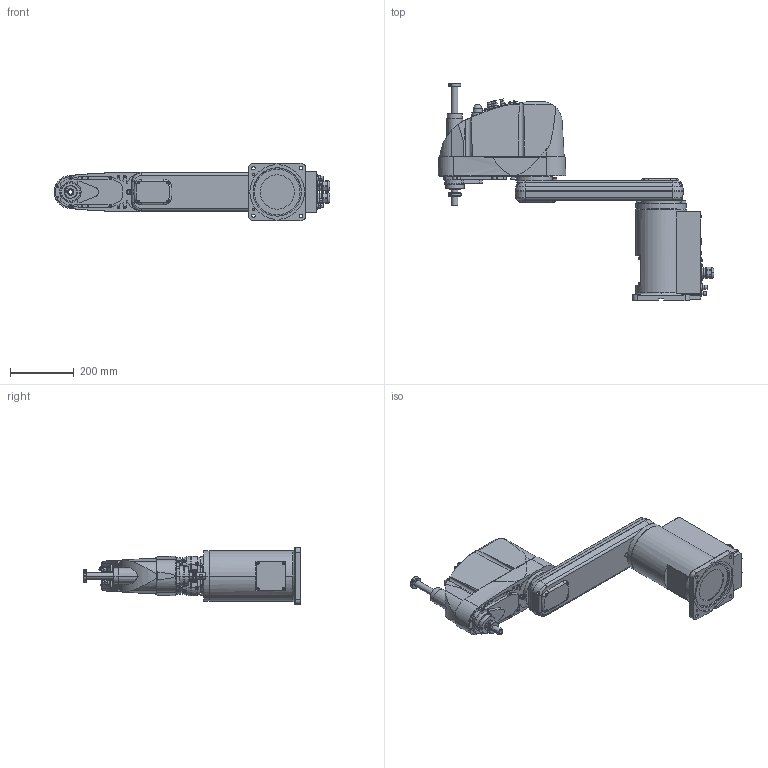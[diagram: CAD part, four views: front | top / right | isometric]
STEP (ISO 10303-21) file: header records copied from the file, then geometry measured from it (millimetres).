
FILE_DESCRIPTION( ( '' ), '1' );
FILE_NAME( '//expscmdclustefs.cadenas.external/client_exchange/iodir/jobs/output/wkb51543004_no0/STEP/G6_651S_2_14b.stp', '2012-11-23T11:42:59', ( '' ), ( '' ), ' ', ' ', ' ' );
FILE_SCHEMA( ( 'automotive_design' ) );
Length unit declared in the file: millimetre
Products named in the file (4): 1; 2; 3; 4
Bounding box: 867.5 x 684 x 180 mm (x, y, z)
Volume: 20669105.8 mm3; surface area: 905640.8 mm2
Topology: 4 solids, 4 shells, 1576 faces, 3859 edges, 2484 vertices
Faces by surface type: plane 789, cylinder 533, cone 194, torus 59, sphere 1
Entity records: 93192 total; most frequent: CARTESIAN_POINT 10813, DIRECTION 8240, STYLED_ITEM 7897, PRESENTATION_STYLE_ASSIGNMENT 7897, COLOUR_RGB 7897, ORIENTED_EDGE 7666, EDGE_CURVE 3833, CURVE_STYLE 3833
